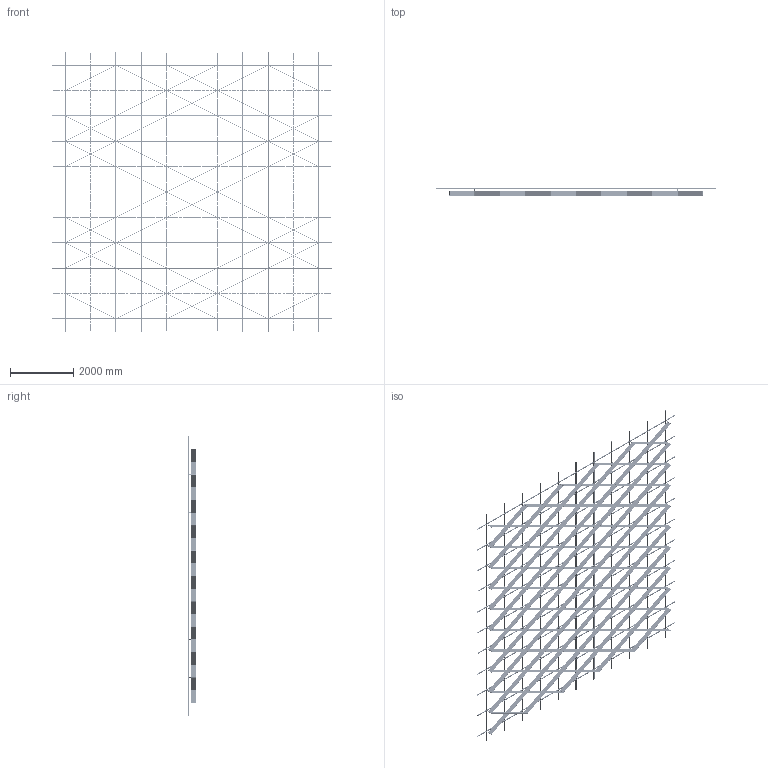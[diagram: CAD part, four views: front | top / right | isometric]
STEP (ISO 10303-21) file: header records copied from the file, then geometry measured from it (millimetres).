
FILE_DESCRIPTION (( 'STEP AP214' ), '1' );
FILE_NAME ('OPT_Var2.STEP', '2024-04-26T06:22:37', ( '' ), ( '' ), 'SwSTEP 2.0', 'SolidWorks 2020', '' );
FILE_SCHEMA (( 'AUTOMOTIVE_DESIGN' ));
Length unit declared in the file: millimetre
Products named in the file (5): SS.SEMA.2400 - Ñèìà-ïðîôèëü — îáðåçàí 1600; SS.SEMA.2400 - Ñèìà-ïðîôèëü; Varp2; Ñèñòåìà â çîíå 8000õ8000; OPT_Var2
Assembly tree (90 placements, depth 3):
  OPT_Var2
    Ñèñòåìà â çîíå 8000õ8000
      SS.SEMA.2400 - Ñèìà-ïðîôèëü  x66
      SS.SEMA.2400 - Ñèìà-ïðîôèëü — îáðåçàí 1600  x22
    Varp2
Bounding box: 8800 x 253 x 8800 mm (x, y, z)
Volume: 220408837.5 mm3; surface area: 87710234.8 mm2
Topology: 752 solids, 752 shells, 20356 faces, 55148 edges, 36296 vertices
Faces by surface type: cylinder 12786, plane 7570
Entity records: 114657 total; most frequent: CARTESIAN_POINT 34922, ORIENTED_EDGE 17144, DIRECTION 10066, EDGE_CURVE 8572, B_SPLINE_CURVE_WITH_KNOTS 5728, VERTEX_POINT 5704, AXIS2_PLACEMENT_3D 4784, EDGE_LOOP 4362
